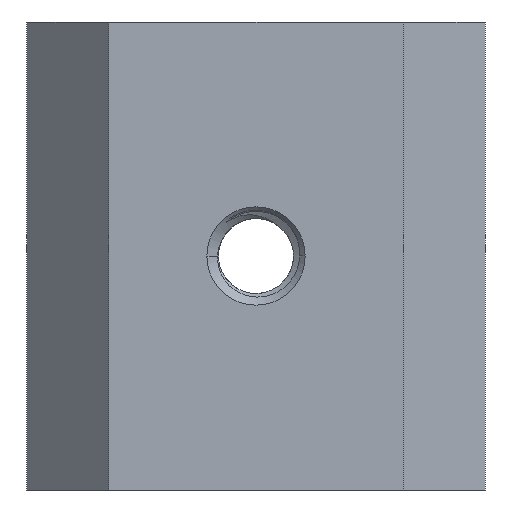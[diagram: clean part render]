
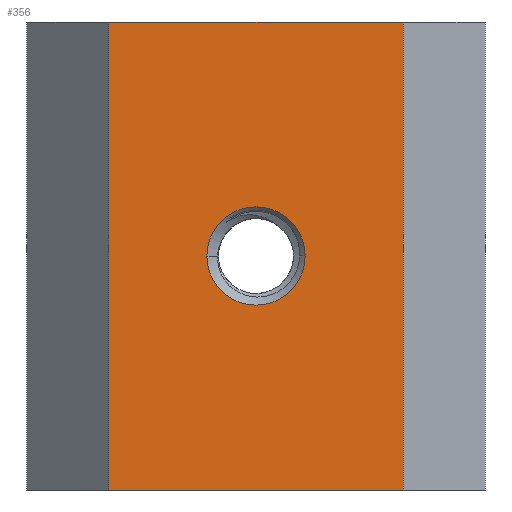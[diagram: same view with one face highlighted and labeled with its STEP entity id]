
A CAD part, front view. The second image highlights one B-rep face of the part: STEP entity #356.
In plain terms, the highlighted planar face has unit normal (0, -1, 0).
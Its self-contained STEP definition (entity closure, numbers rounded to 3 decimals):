
#43 = EDGE_LOOP ( 'NONE', ( #4507, #5885, #1823, #477 ) ) ;
#110 = VERTEX_POINT ( 'NONE', #6470 ) ;
#136 = EDGE_LOOP ( 'NONE', ( #1871, #5167 ) ) ;
#143 = DIRECTION ( 'NONE',  ( 0., 1., 0. ) ) ;
#356 = ADVANCED_FACE ( 'NONE', ( #3042, #1300 ), #1932, .F. ) ;
#411 = CARTESIAN_POINT ( 'NONE',  ( 0., 0., 0. ) ) ;
#477 = ORIENTED_EDGE ( 'NONE', *, *, #2378, .T. ) ;
#763 = EDGE_CURVE ( 'NONE', #110, #2344, #5414, .T. ) ;
#828 = CARTESIAN_POINT ( 'NONE',  ( 6.3, 0., -10. ) ) ;
#901 = AXIS2_PLACEMENT_3D ( 'NONE', #2840, #143, #3361 ) ;
#1134 = EDGE_CURVE ( 'NONE', #4205, #6164, #4543, .T. ) ;
#1300 = FACE_OUTER_BOUND ( 'NONE', #43, .T. ) ;
#1495 = CARTESIAN_POINT ( 'NONE',  ( -6.3, 0., -10. ) ) ;
#1746 = LINE ( 'NONE', #5726, #6744 ) ;
#1823 = ORIENTED_EDGE ( 'NONE', *, *, #1134, .F. ) ;
#1871 = ORIENTED_EDGE ( 'NONE', *, *, #763, .T. ) ;
#1917 = LINE ( 'NONE', #1495, #4223 ) ;
#1932 = PLANE ( 'NONE',  #4862 ) ;
#1993 = VECTOR ( 'NONE', #6681, 1000. ) ;
#2344 = VERTEX_POINT ( 'NONE', #2855 ) ;
#2378 = EDGE_CURVE ( 'NONE', #4205, #6464, #1746, .T. ) ;
#2498 = CARTESIAN_POINT ( 'NONE',  ( -6.3, 0., 10. ) ) ;
#2794 = DIRECTION ( 'NONE',  ( 0., 0., -1. ) ) ;
#2840 = CARTESIAN_POINT ( 'NONE',  ( 0., 0., 0. ) ) ;
#2855 = CARTESIAN_POINT ( 'NONE',  ( -2.1, 0., 0. ) ) ;
#3042 = FACE_BOUND ( 'NONE', #136, .T. ) ;
#3227 = CIRCLE ( 'NONE', #901, 2.1 ) ;
#3339 = CARTESIAN_POINT ( 'NONE',  ( -6.3, 0., 10. ) ) ;
#3361 = DIRECTION ( 'NONE',  ( -1., 0., 0. ) ) ;
#4205 = VERTEX_POINT ( 'NONE', #3339 ) ;
#4223 = VECTOR ( 'NONE', #5658, 1000. ) ;
#4404 = CARTESIAN_POINT ( 'NONE',  ( -6.3, 0., -10. ) ) ;
#4507 = ORIENTED_EDGE ( 'NONE', *, *, #4734, .T. ) ;
#4543 = LINE ( 'NONE', #2498, #1993 ) ;
#4637 = CARTESIAN_POINT ( 'NONE',  ( -6.3, 0., 10. ) ) ;
#4655 = DIRECTION ( 'NONE',  ( 0., 0., -1. ) ) ;
#4734 = EDGE_CURVE ( 'NONE', #6464, #6595, #1917, .T. ) ;
#4847 = CARTESIAN_POINT ( 'NONE',  ( 6.3, 0., 10. ) ) ;
#4862 = AXIS2_PLACEMENT_3D ( 'NONE', #4637, #6150, #5155 ) ;
#4876 = VECTOR ( 'NONE', #2794, 1000. ) ;
#4936 = CARTESIAN_POINT ( 'NONE',  ( 6.3, 0., 10. ) ) ;
#5084 = EDGE_CURVE ( 'NONE', #6164, #6595, #5455, .T. ) ;
#5155 = DIRECTION ( 'NONE',  ( -1., 0., 0. ) ) ;
#5167 = ORIENTED_EDGE ( 'NONE', *, *, #5671, .T. ) ;
#5309 = AXIS2_PLACEMENT_3D ( 'NONE', #411, #6245, #6729 ) ;
#5414 = CIRCLE ( 'NONE', #5309, 2.1 ) ;
#5455 = LINE ( 'NONE', #4936, #4876 ) ;
#5658 = DIRECTION ( 'NONE',  ( 1., 0., 0. ) ) ;
#5671 = EDGE_CURVE ( 'NONE', #2344, #110, #3227, .T. ) ;
#5726 = CARTESIAN_POINT ( 'NONE',  ( -6.3, 0., 10. ) ) ;
#5885 = ORIENTED_EDGE ( 'NONE', *, *, #5084, .F. ) ;
#6150 = DIRECTION ( 'NONE',  ( 0., 1., 0. ) ) ;
#6164 = VERTEX_POINT ( 'NONE', #4847 ) ;
#6245 = DIRECTION ( 'NONE',  ( 0., 1., 0. ) ) ;
#6464 = VERTEX_POINT ( 'NONE', #4404 ) ;
#6470 = CARTESIAN_POINT ( 'NONE',  ( 2.1, 0., 0. ) ) ;
#6595 = VERTEX_POINT ( 'NONE', #828 ) ;
#6681 = DIRECTION ( 'NONE',  ( 1., 0., 0. ) ) ;
#6729 = DIRECTION ( 'NONE',  ( -1., 0., 0. ) ) ;
#6744 = VECTOR ( 'NONE', #4655, 1000. ) ;
